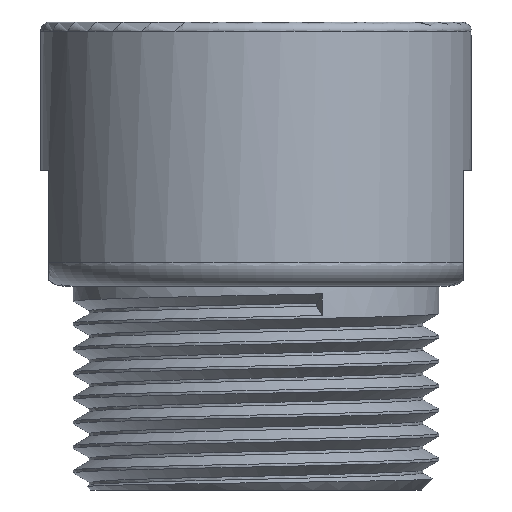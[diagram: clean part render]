
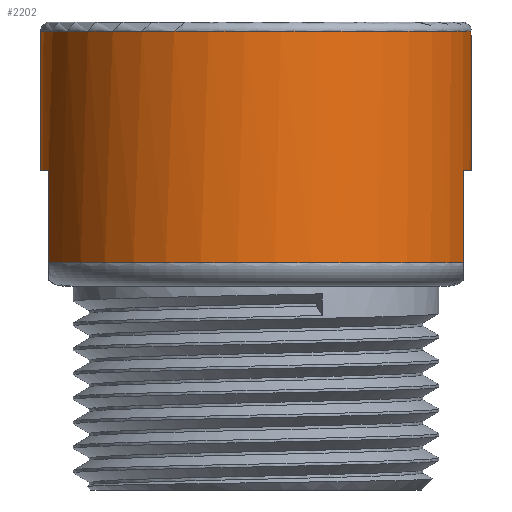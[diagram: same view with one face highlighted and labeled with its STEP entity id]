
A CAD part, front view. The second image highlights one B-rep face of the part: STEP entity #2202.
In plain terms, the highlighted cylindrical face has radius 9.3 mm (diameter 18.6 mm), a full revolution.
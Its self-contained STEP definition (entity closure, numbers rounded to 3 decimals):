
#36 = CARTESIAN_POINT ( 'NONE',  ( 8.95, 2.527, -6.4 ) ) ;
#53 = CARTESIAN_POINT ( 'NONE',  ( 0., 0., -6.4 ) ) ;
#71 = EDGE_CURVE ( 'NONE', #2887, #2178, #2608, .T. ) ;
#74 = VERTEX_POINT ( 'NONE', #252 ) ;
#151 = DIRECTION ( 'NONE',  ( 0., 0., 1. ) ) ;
#238 = DIRECTION ( 'NONE',  ( 0., 0., -1. ) ) ;
#252 = CARTESIAN_POINT ( 'NONE',  ( -9.3, 0., -0.4 ) ) ;
#260 = LINE ( 'NONE', #1246, #562 ) ;
#264 = DIRECTION ( 'NONE',  ( 1., 0., 0. ) ) ;
#265 = VERTEX_POINT ( 'NONE', #2005 ) ;
#303 = CIRCLE ( 'NONE', #1925, 9.3 ) ;
#312 = EDGE_LOOP ( 'NONE', ( #373, #838, #1620, #3285, #3520, #2353, #2619, #1308 ) ) ;
#373 = ORIENTED_EDGE ( 'NONE', *, *, #3027, .T. ) ;
#417 = EDGE_LOOP ( 'NONE', ( #2852 ) ) ;
#443 = CIRCLE ( 'NONE', #2760, 9.3 ) ;
#520 = DIRECTION ( 'NONE',  ( 0., 0., 1. ) ) ;
#530 = AXIS2_PLACEMENT_3D ( 'NONE', #3224, #151, #3056 ) ;
#562 = VECTOR ( 'NONE', #3260, 1000. ) ;
#767 = DIRECTION ( 'NONE',  ( 0., 0., -1. ) ) ;
#828 = VECTOR ( 'NONE', #767, 1000. ) ;
#838 = ORIENTED_EDGE ( 'NONE', *, *, #2801, .F. ) ;
#850 = EDGE_CURVE ( 'NONE', #265, #2612, #1735, .T. ) ;
#943 = DIRECTION ( 'NONE',  ( 0., 0., 1. ) ) ;
#973 = CYLINDRICAL_SURFACE ( 'NONE', #2467, 9.3 ) ;
#1021 = FACE_OUTER_BOUND ( 'NONE', #312, .T. ) ;
#1051 = CARTESIAN_POINT ( 'NONE',  ( -8.95, -2.527, -6.4 ) ) ;
#1107 = VECTOR ( 'NONE', #3740, 1000. ) ;
#1153 = LINE ( 'NONE', #1051, #828 ) ;
#1246 = CARTESIAN_POINT ( 'NONE',  ( 8.95, -2.527, -6.4 ) ) ;
#1308 = ORIENTED_EDGE ( 'NONE', *, *, #3495, .T. ) ;
#1352 = CARTESIAN_POINT ( 'NONE',  ( 0., 0., -0.4 ) ) ;
#1490 = EDGE_CURVE ( 'NONE', #265, #3418, #2015, .T. ) ;
#1552 = AXIS2_PLACEMENT_3D ( 'NONE', #2739, #2989, #2421 ) ;
#1620 = ORIENTED_EDGE ( 'NONE', *, *, #1490, .F. ) ;
#1735 = LINE ( 'NONE', #36, #2882 ) ;
#1887 = CIRCLE ( 'NONE', #2960, 9.3 ) ;
#1888 = EDGE_CURVE ( 'NONE', #74, #74, #303, .T. ) ;
#1904 = CARTESIAN_POINT ( 'NONE',  ( 8.95, -2.527, -10.4 ) ) ;
#1925 = AXIS2_PLACEMENT_3D ( 'NONE', #1352, #238, #2575 ) ;
#2002 = DIRECTION ( 'NONE',  ( 0., 0., -1. ) ) ;
#2005 = CARTESIAN_POINT ( 'NONE',  ( 8.95, 2.527, -6.4 ) ) ;
#2015 = CIRCLE ( 'NONE', #1552, 9.3 ) ;
#2130 = VERTEX_POINT ( 'NONE', #3670 ) ;
#2177 = CARTESIAN_POINT ( 'NONE',  ( 8.95, 2.527, -10.4 ) ) ;
#2178 = VERTEX_POINT ( 'NONE', #2234 ) ;
#2202 = ADVANCED_FACE ( 'NONE', ( #3095, #1021 ), #973, .T. ) ;
#2234 = CARTESIAN_POINT ( 'NONE',  ( -8.95, 2.527, -10.4 ) ) ;
#2353 = ORIENTED_EDGE ( 'NONE', *, *, #71, .F. ) ;
#2421 = DIRECTION ( 'NONE',  ( -1., 0., 0. ) ) ;
#2467 = AXIS2_PLACEMENT_3D ( 'NONE', #3713, #520, #264 ) ;
#2575 = DIRECTION ( 'NONE',  ( -1., 0., 0. ) ) ;
#2608 = LINE ( 'NONE', #3484, #1107 ) ;
#2612 = VERTEX_POINT ( 'NONE', #2177 ) ;
#2619 = ORIENTED_EDGE ( 'NONE', *, *, #2823, .F. ) ;
#2683 = CARTESIAN_POINT ( 'NONE',  ( 0., 0., -10.4 ) ) ;
#2739 = CARTESIAN_POINT ( 'NONE',  ( 0., 0., -6.4 ) ) ;
#2760 = AXIS2_PLACEMENT_3D ( 'NONE', #2683, #943, #3540 ) ;
#2781 = EDGE_CURVE ( 'NONE', #2612, #2178, #443, .T. ) ;
#2801 = EDGE_CURVE ( 'NONE', #3418, #3462, #260, .T. ) ;
#2814 = CARTESIAN_POINT ( 'NONE',  ( -8.95, -2.527, -6.4 ) ) ;
#2823 = EDGE_CURVE ( 'NONE', #3604, #2887, #1887, .T. ) ;
#2852 = ORIENTED_EDGE ( 'NONE', *, *, #1888, .T. ) ;
#2882 = VECTOR ( 'NONE', #2002, 1000. ) ;
#2887 = VERTEX_POINT ( 'NONE', #3549 ) ;
#2920 = DIRECTION ( 'NONE',  ( -1., 0., 0. ) ) ;
#2960 = AXIS2_PLACEMENT_3D ( 'NONE', #53, #3490, #2920 ) ;
#2975 = CIRCLE ( 'NONE', #530, 9.3 ) ;
#2989 = DIRECTION ( 'NONE',  ( 0., 0., -1. ) ) ;
#3027 = EDGE_CURVE ( 'NONE', #2130, #3462, #2975, .T. ) ;
#3056 = DIRECTION ( 'NONE',  ( 1., 0., 0. ) ) ;
#3095 = FACE_OUTER_BOUND ( 'NONE', #417, .T. ) ;
#3224 = CARTESIAN_POINT ( 'NONE',  ( 0., 0., -10.4 ) ) ;
#3260 = DIRECTION ( 'NONE',  ( 0., 0., -1. ) ) ;
#3285 = ORIENTED_EDGE ( 'NONE', *, *, #850, .T. ) ;
#3365 = CARTESIAN_POINT ( 'NONE',  ( 8.95, -2.527, -6.4 ) ) ;
#3418 = VERTEX_POINT ( 'NONE', #3365 ) ;
#3462 = VERTEX_POINT ( 'NONE', #1904 ) ;
#3484 = CARTESIAN_POINT ( 'NONE',  ( -8.95, 2.527, -6.4 ) ) ;
#3490 = DIRECTION ( 'NONE',  ( 0., 0., -1. ) ) ;
#3495 = EDGE_CURVE ( 'NONE', #3604, #2130, #1153, .T. ) ;
#3520 = ORIENTED_EDGE ( 'NONE', *, *, #2781, .T. ) ;
#3540 = DIRECTION ( 'NONE',  ( 1., 0., 0. ) ) ;
#3549 = CARTESIAN_POINT ( 'NONE',  ( -8.95, 2.527, -6.4 ) ) ;
#3604 = VERTEX_POINT ( 'NONE', #2814 ) ;
#3670 = CARTESIAN_POINT ( 'NONE',  ( -8.95, -2.527, -10.4 ) ) ;
#3713 = CARTESIAN_POINT ( 'NONE',  ( 0., 0., 9.003 ) ) ;
#3740 = DIRECTION ( 'NONE',  ( 0., 0., -1. ) ) ;
